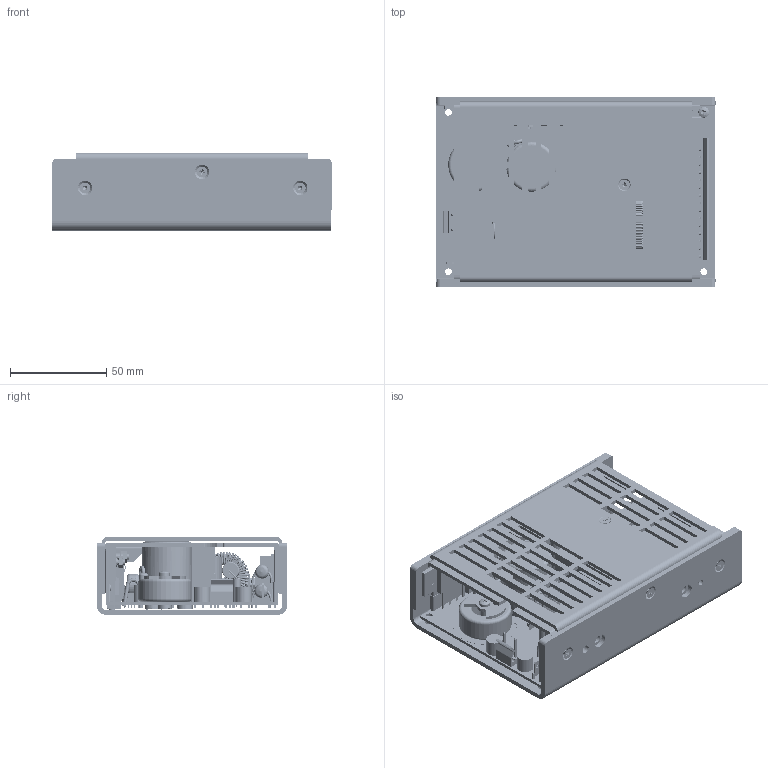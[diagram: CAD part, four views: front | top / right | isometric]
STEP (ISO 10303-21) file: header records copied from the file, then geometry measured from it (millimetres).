
FILE_DESCRIPTION (( 'STEP AP214' ), '1' );
FILE_NAME ('RCL175-C.STEP', '2018-10-19T08:31:35', ( '' ), ( '' ), 'SwSTEP 2.0', 'SolidWorks 2017', '' );
FILE_SCHEMA (( 'AUTOMOTIVE_DESIGN' ));
Length unit declared in the file: millimetre
Products named in the file (85): T2_ PINNED; SW3dPS-amp_171825_header; TO220_3_lead_uncut_1; PRIMARY_H-SINK; MET-FILM-S-U; ppb80 101-1; SW3dPS-01 inch_right angle pin strip; HEATSINK_SPACER; CERAMIC BEAD; TO220_2_lead_cut500l_1; SCREW-PFH(90)_M3.0x12; PIN_SPECIAL_9.5; Cap_disk_450x100_ls300_cut112l; CAP-CER-UL1440; PRIMARY_SUBSINK; L2_TOROID; CLIP SCREW INS.; T1; D1; L9_winding_red; TOROID T2_MOUNT; SECONDARY_SUBSINK; SW3dPS-16 way 0.1inch pitch molex header; PPB80 102-1; CHOKE_CLAMP (L2); SCREW-PFH(90)_M3.0x12_6 lg; SEC_H-SINK; PTFE SLEEVING; Pem_Nut_Flush_Metric_F-M3-1; HEADER-SR_2-WAY-SQ-PIN; CONVECTION COVER, THICK_COVER_FAN_EXTERNAL; T3_PINNED; SIL PAD FOR BR1; NUT-HEX_M3.0; C1  INS._FLD; SCREW-PFH(90)_M3.0x12_10 lg; TAG MK3 RH; BAT WASHER; Thermistor_Disc_PTO_01_600D x 150T 250x050LS cut 112; 3 way (I BLANK) 0.156nch pitchheader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
Assembly tree (210 placements, depth 3):
  SW3dPS-amp_171825_header
  SW3dPS-01 inch_right angle pin strip
  PTFE SLEEVING
  HEADER-SR_2-WAY-SQ-PIN
  AL100-030
Bounding box: 145.06 x 99 x 40.4 mm (x, y, z)
Volume: 228209.4 mm3; surface area: 233287.8 mm2
Topology: 209 solids, 210 shells, 5393 faces, 13434 edges, 8525 vertices
Faces by surface type: plane 2891, cylinder 1590, torus 744, cone 122, sphere 24, bspline 22
Entity records: 116010 total; most frequent: CARTESIAN_POINT 17130, DIRECTION 16382, ORIENTED_EDGE 15896, EDGE_CURVE 7948, LINE 6164, VECTOR 6164, AXIS2_PLACEMENT_3D 5109, VERTEX_POINT 5089
